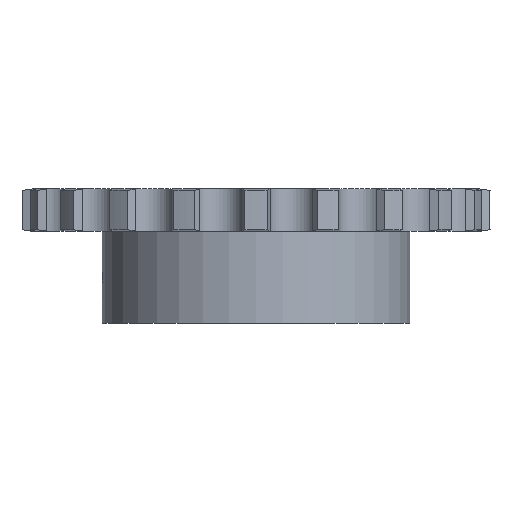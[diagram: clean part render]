
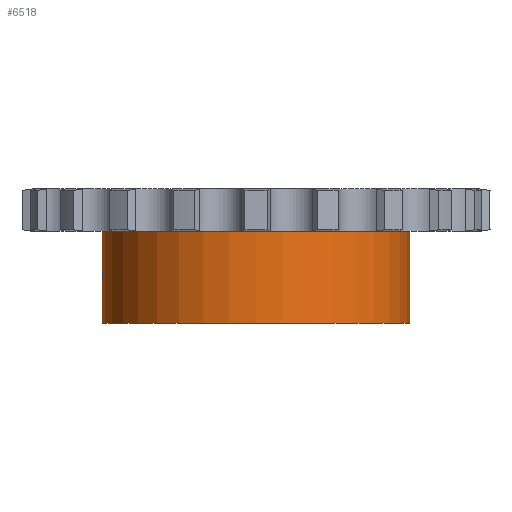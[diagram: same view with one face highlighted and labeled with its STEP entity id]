
A CAD part, front view. The second image highlights one B-rep face of the part: STEP entity #6518.
In plain terms, the highlighted cylindrical face has radius 40 mm (diameter 80 mm), a partial arc.
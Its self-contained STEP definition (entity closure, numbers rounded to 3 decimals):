
#1235=CARTESIAN_POINT('',(0.,0.,-5.55));
#1236=DIRECTION('',(0.,0.,1.));
#1237=DIRECTION('',(-1.,0.,0.));
#1238=AXIS2_PLACEMENT_3D('',#1235,#1236,#1237);
#3215=CARTESIAN_POINT('',(-40.,0.,
-15.5));
#3237=DIRECTION('',(0.,0.,1.));
#3238=VECTOR('',#3237,23.9);
#3239=CARTESIAN_POINT('',(40.,0.,-29.45));
#3240=LINE('',#3239,#3238);
#3354=CARTESIAN_POINT('',(-40.,0.,
-15.5));
#3355=CARTESIAN_POINT('',(-40.,-0.105,
-15.5));
#3356=CARTESIAN_POINT('',(-39.999,-0.313,
-15.516));
#3357=CARTESIAN_POINT('',(-39.995,-0.626,
-15.59));
#3358=CARTESIAN_POINT('',(-39.99,-0.924,
-15.713));
#3359=CARTESIAN_POINT('',(-39.982,-1.196,
-15.879));
#3360=CARTESIAN_POINT('',(-39.974,-1.437,
-16.084));
#3361=CARTESIAN_POINT('',(-39.966,-1.643,
-16.325));
#3362=CARTESIAN_POINT('',(-39.959,-1.809,
-16.596));
#3363=CARTESIAN_POINT('',(-39.953,-1.93,
-16.89));
#3364=CARTESIAN_POINT('',(-39.95,-2.002,
-17.197));
#3365=CARTESIAN_POINT('',(-39.949,-2.018,
-17.399));
#3366=CARTESIAN_POINT('',(-39.949,-2.018,
-17.5));
#3371=DIRECTION('',(0.,0.,1.));
#3372=VECTOR('',#3371,9.95);
#3373=CARTESIAN_POINT('',(-40.,0.,
-15.5));
#3374=LINE('',#3373,#3372);
#3378=DIRECTION('',(0.,0.,1.));
#3379=VECTOR('',#3378,9.95);
#3380=CARTESIAN_POINT('',(-40.,0.,-29.45));
#3381=LINE('',#3380,#3379);
#3385=CARTESIAN_POINT('',(-39.949,-2.018,
-17.5));
#3386=CARTESIAN_POINT('',(-39.949,-2.018,
-17.601));
#3387=CARTESIAN_POINT('',(-39.95,-2.002,
-17.802));
#3388=CARTESIAN_POINT('',(-39.953,-1.931,
-18.108));
#3389=CARTESIAN_POINT('',(-39.959,-1.81,
-18.402));
#3390=CARTESIAN_POINT('',(-39.966,-1.644,
-18.675));
#3391=CARTESIAN_POINT('',(-39.974,-1.437,
-18.915));
#3392=CARTESIAN_POINT('',(-39.982,-1.197,
-19.12));
#3393=CARTESIAN_POINT('',(-39.99,-0.925,
-19.287));
#3394=CARTESIAN_POINT('',(-39.995,-0.627,
-19.41));
#3395=CARTESIAN_POINT('',(-39.999,-0.313,
-19.484));
#3396=CARTESIAN_POINT('',(-40.,-0.105,
-19.5));
#3397=CARTESIAN_POINT('',(-40.,0.,
-19.5));
#3410=CARTESIAN_POINT('',(0.,0.,-29.45));
#3411=DIRECTION('',(0.,0.,-1.));
#3412=DIRECTION('',(1.,0.,0.));
#3413=AXIS2_PLACEMENT_3D('',#3410,#3411,#3412);
#3787=CARTESIAN_POINT('',(-40.,0.,-29.45));
#3788=CARTESIAN_POINT('',(40.,0.,-29.45));
#3789=VERTEX_POINT('',#3787);
#3790=VERTEX_POINT('',#3788);
#3791=CARTESIAN_POINT('',(40.,0.,-5.55));
#3792=VERTEX_POINT('',#3791);
#3793=CARTESIAN_POINT('',(-40.,0.,-5.55));
#3794=VERTEX_POINT('',#3793);
#4002=VERTEX_POINT('',#3215);
#4005=VERTEX_POINT('',#3366);
#4007=VERTEX_POINT('',#3397);
#6502=CARTESIAN_POINT('',(0.,0.,5.55));
#6503=DIRECTION('',(0.,0.,1.));
#6504=DIRECTION('',(1.,0.,0.));
#6505=AXIS2_PLACEMENT_3D('',#6502,#6503,#6504);
#6506=CYLINDRICAL_SURFACE('',#6505,40.);
#6507=ORIENTED_EDGE('',*,*,#6492,.F.);
#6508=ORIENTED_EDGE('',*,*,#6131,.T.);
#6509=ORIENTED_EDGE('',*,*,#5354,.T.);
#6510=ORIENTED_EDGE('',*,*,#6128,.F.);
#6512=ORIENTED_EDGE('',*,*,#6511,.T.);
#6513=ORIENTED_EDGE('',*,*,#6124,.T.);
#6515=ORIENTED_EDGE('',*,*,#6514,.F.);
#6516=EDGE_LOOP('',(#6507,#6508,#6509,#6510,#6512,#6513,#6515));
#6517=FACE_OUTER_BOUND('',#6516,.F.);
#6518=ADVANCED_FACE('',(#6517),#6506,.T.);
#1239=CIRCLE('',#1238,40.);
#3367=B_SPLINE_CURVE_WITH_KNOTS('',3,(#3354,#3355,#3356,#3357,#3358,#3359,#3360,
#3361,#3362,#3363,#3364,#3365,#3366),.UNSPECIFIED.,.F.,.F.,(4,1,1,1,1,1,1,1,1,1,
4),(0.,0.1,0.2,0.3,0.4,0.5,0.6,0.7,0.8,0.9,1.),
.UNSPECIFIED.);
#3398=B_SPLINE_CURVE_WITH_KNOTS('',3,(#3385,#3386,#3387,#3388,#3389,#3390,#3391,
#3392,#3393,#3394,#3395,#3396,#3397),.UNSPECIFIED.,.F.,.F.,(4,1,1,1,1,1,1,1,1,1,
4),(0.,0.1,0.2,0.3,0.4,0.5,0.6,0.7,0.8,0.9,1.),
.UNSPECIFIED.);
#3414=CIRCLE('',#3413,40.);
#5354=EDGE_CURVE('',#3794,#3792,#1239,.T.);
#6124=EDGE_CURVE('',#3789,#4007,#3381,.T.);
#6128=EDGE_CURVE('',#3790,#3792,#3240,.T.);
#6131=EDGE_CURVE('',#4002,#3794,#3374,.T.);
#6492=EDGE_CURVE('',#4002,#4005,#3367,.T.);
#6511=EDGE_CURVE('',#3790,#3789,#3414,.T.);
#6514=EDGE_CURVE('',#4005,#4007,#3398,.T.);
